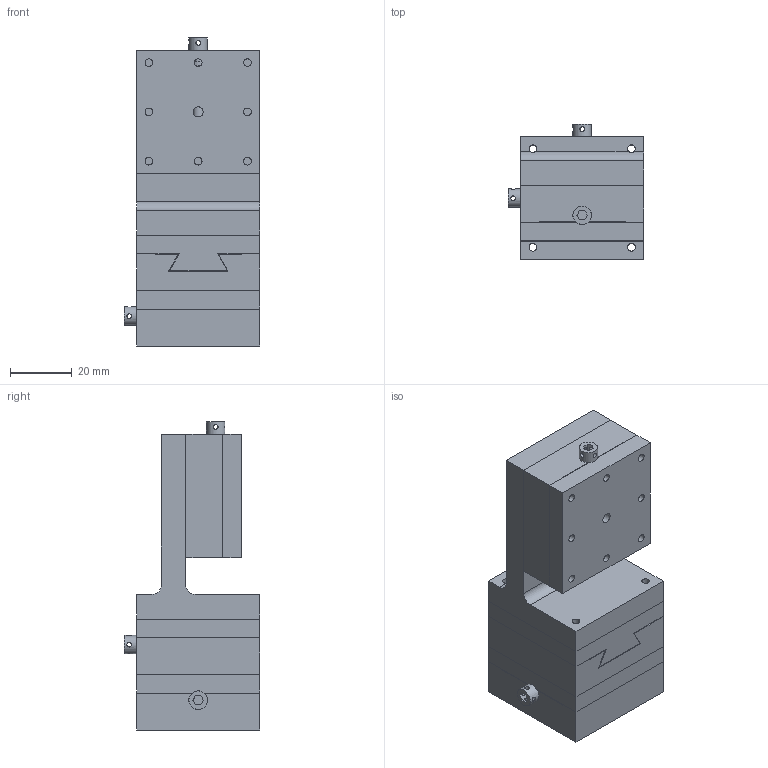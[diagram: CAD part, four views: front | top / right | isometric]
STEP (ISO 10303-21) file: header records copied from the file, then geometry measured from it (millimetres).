
FILE_DESCRIPTION( ( 'STEP AP203' ), '1' );
FILE_NAME( 'C:/3D-Trans/3D_BDBVS-40+080811.step', '2008-08-11T00:40:37', ( ' ' ), ( ' ' ), 'XStep 1.0', ' ', ' ' );
FILE_SCHEMA( ( 'CONFIG_CONTROL_DESIGN' ) );
Length unit declared in the file: millimetre
Products named in the file (10): 1; 2; 3; 4; 5; 6; 7; 8; 9; 10
Bounding box: 44 x 44 x 100 mm (x, y, z)
Volume: 105843 mm3; surface area: 47294.5 mm2
Topology: 10 solids, 10 shells, 326 faces, 918 edges, 613 vertices
Faces by surface type: plane 193, cylinder 127, cone 6
Full cylindrical faces by diameter (mm): 1.5 x12, 2.5 x28, 3 x6, 3.3 x18, 3.5 x7, 6 x18
Entity records: 10885 total; most frequent: CARTESIAN_POINT 2178, DIRECTION 1703, ORIENTED_EDGE 1570, EDGE_CURVE 785, AXIS2_PLACEMENT_3D 602, VERTEX_POINT 575, EDGE_LOOP 546, LINE 499
